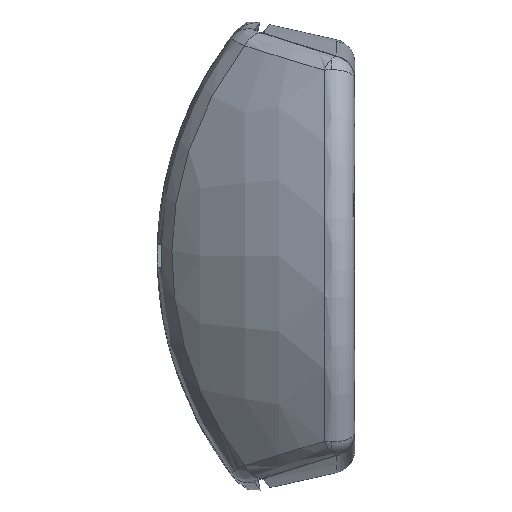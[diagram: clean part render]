
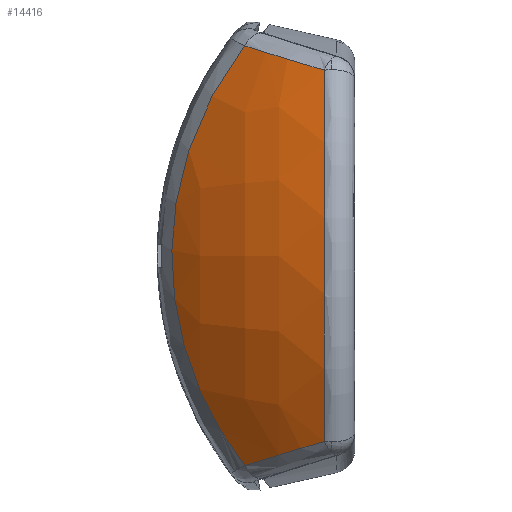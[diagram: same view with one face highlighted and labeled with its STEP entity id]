
A CAD part, left-side view. The second image highlights one B-rep face of the part: STEP entity #14416.
In plain terms, the highlighted toroidal (fillet/blend) face has major radius 7.691 mm and minor radius 35 mm.
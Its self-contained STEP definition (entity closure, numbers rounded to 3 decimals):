
#656 = ORIENTED_EDGE ( 'NONE', *, *, #6350, .T. ) ;
#731 = CARTESIAN_POINT ( 'NONE',  ( 27.093, 7.359, 17.403 ) ) ;
#754 = EDGE_CURVE ( 'NONE', #13818, #17174, #13483, .T. ) ;
#1221 = CARTESIAN_POINT ( 'NONE',  ( 25.263, 14.725, -7.612 ) ) ;
#1279 = CARTESIAN_POINT ( 'NONE',  ( 25.335, 12.892, 12.555 ) ) ;
#1608 = VERTEX_POINT ( 'NONE', #18171 ) ;
#1785 = FACE_OUTER_BOUND ( 'NONE', #3073, .T. ) ;
#1818 = DIRECTION ( 'NONE',  ( 0., 1., 0. ) ) ;
#1880 = EDGE_CURVE ( 'NONE', #4602, #13818, #18003, .T. ) ;
#1901 = CARTESIAN_POINT ( 'NONE',  ( 25.327, 9.46, 18.066 ) ) ;
#2787 = CARTESIAN_POINT ( 'NONE',  ( 25.234, 15.201, -5.632 ) ) ;
#2855 = CARTESIAN_POINT ( 'NONE',  ( 25.356, 11.356, 15.428 ) ) ;
#3073 = EDGE_LOOP ( 'NONE', ( #16927, #656, #10299, #12401 ) ) ;
#4367 = CARTESIAN_POINT ( 'NONE',  ( 25.195, 15.745, -1.631 ) ) ;
#4434 = CARTESIAN_POINT ( 'NONE',  ( 25.327, 9.46, 18.066 ) ) ;
#4602 = VERTEX_POINT ( 'NONE', #11586 ) ;
#5900 = CARTESIAN_POINT ( 'NONE',  ( 25.353, 11.339, -15.392 ) ) ;
#5952 = B_SPLINE_CURVE_WITH_KNOTS ( 'NONE', 3,
 ( #10106, #731, #7119, #18192 ),
 .UNSPECIFIED., .F., .F.,
 ( 4, 4 ),
 ( 0., 0.008 ),
 .UNSPECIFIED. ) ;
#5974 = CARTESIAN_POINT ( 'NONE',  ( 25.198, 15.712, 1.619 ) ) ;
#6350 = EDGE_CURVE ( 'NONE', #17174, #1608, #5952, .T. ) ;
#6761 = AXIS2_PLACEMENT_3D ( 'NONE', #10922, #20447, #14115 ) ;
#6838 = CARTESIAN_POINT ( 'NONE',  ( 29.756, 2.623, -15.979 ) ) ;
#7119 = CARTESIAN_POINT ( 'NONE',  ( 28.574, 5.085, 16.699 ) ) ;
#7408 = CARTESIAN_POINT ( 'NONE',  ( 25.347, 10.443, -16.755 ) ) ;
#7479 = CARTESIAN_POINT ( 'NONE',  ( 25.338, 12.922, -12.568 ) ) ;
#7548 = CARTESIAN_POINT ( 'NONE',  ( 25.216, 15.47, 4.057 ) ) ;
#8396 = CARTESIAN_POINT ( 'NONE',  ( 27.093, 7.359, -17.403 ) ) ;
#9048 = CARTESIAN_POINT ( 'NONE',  ( 25.287, 14.25, -9.176 ) ) ;
#9114 = CARTESIAN_POINT ( 'NONE',  ( 25.269, 14.656, 8.012 ) ) ;
#9636 = TOROIDAL_SURFACE ( 'NONE', #6761, 7.691, 35. ) ;
#9968 = AXIS2_PLACEMENT_3D ( 'NONE', #11214, #1818, #12794 ) ;
#10106 = CARTESIAN_POINT ( 'NONE',  ( 25.327, 9.46, 18.066 ) ) ;
#10299 = ORIENTED_EDGE ( 'NONE', *, *, #10494, .T. ) ;
#10494 = EDGE_CURVE ( 'NONE', #1608, #4602, #12695, .T. ) ;
#10608 = CARTESIAN_POINT ( 'NONE',  ( 25.269, 14.614, -8.008 ) ) ;
#10677 = CARTESIAN_POINT ( 'NONE',  ( 25.316, 13.557, 11.061 ) ) ;
#10922 = CARTESIAN_POINT ( 'NONE',  ( -7.947, -8.279, 0. ) ) ;
#11214 = CARTESIAN_POINT ( 'NONE',  ( -7.947, 2.623, 0. ) ) ;
#11586 = CARTESIAN_POINT ( 'NONE',  ( 29.756, 2.623, -15.979 ) ) ;
#12187 = CARTESIAN_POINT ( 'NONE',  ( 25.245, 15.031, -6.426 ) ) ;
#12252 = CARTESIAN_POINT ( 'NONE',  ( 25.343, 12.528, 13.288 ) ) ;
#12401 = ORIENTED_EDGE ( 'NONE', *, *, #1880, .T. ) ;
#12695 = CIRCLE ( 'NONE', #9968, 40.949 ) ;
#12794 = DIRECTION ( 'NONE',  ( 0., 0., -1. ) ) ;
#13483 = B_SPLINE_CURVE_WITH_KNOTS ( 'NONE', 3,
 ( #15335, #13723, #7408, #5900, #16956, #7479, #18550, #9048, #20142, #10608, #1221, #12187, #2787, #13792, #4367, #15406, #5974, #17018, #7548, #18616, #9114, #20209, #10677, #1279, #12252, #2855, #13867, #4434 ),
 .UNSPECIFIED., .F., .F.,
 ( 4, 2, 2, 2, 2, 2, 2, 2, 2, 2, 2, 2, 2, 4 ),
 ( 0.001, 0.004, 0.006, 0.011, 0.012, 0.014, 0.016, 0.021, 0.024, 0.026, 0.031, 0.033, 0.036, 0.041 ),
 .UNSPECIFIED. ) ;
#13723 = CARTESIAN_POINT ( 'NONE',  ( 25.34, 9.964, -17.422 ) ) ;
#13792 = CARTESIAN_POINT ( 'NONE',  ( 25.206, 15.608, -3.239 ) ) ;
#13818 = VERTEX_POINT ( 'NONE', #18876 ) ;
#13867 = CARTESIAN_POINT ( 'NONE',  ( 25.352, 10.463, 16.783 ) ) ;
#14115 = DIRECTION ( 'NONE',  ( 0., 0., -1. ) ) ;
#14416 = ADVANCED_FACE ( 'NONE', ( #1785 ), #9636, .T. ) ;
#15335 = CARTESIAN_POINT ( 'NONE',  ( 25.327, 9.46, -18.066 ) ) ;
#15406 = CARTESIAN_POINT ( 'NONE',  ( 25.195, 15.746, 0.802 ) ) ;
#16291 = CARTESIAN_POINT ( 'NONE',  ( 28.574, 5.085, -16.699 ) ) ;
#16927 = ORIENTED_EDGE ( 'NONE', *, *, #754, .T. ) ;
#16956 = CARTESIAN_POINT ( 'NONE',  ( 25.352, 11.757, -14.697 ) ) ;
#17018 = CARTESIAN_POINT ( 'NONE',  ( 25.208, 15.573, 3.25 ) ) ;
#17174 = VERTEX_POINT ( 'NONE', #1901 ) ;
#18003 = B_SPLINE_CURVE_WITH_KNOTS ( 'NONE', 3,
 ( #6838, #16291, #8396, #19480 ),
 .UNSPECIFIED., .F., .F.,
 ( 4, 4 ),
 ( 0., 0.008 ),
 .UNSPECIFIED. ) ;
#18171 = CARTESIAN_POINT ( 'NONE',  ( 29.756, 2.623, 15.979 ) ) ;
#18192 = CARTESIAN_POINT ( 'NONE',  ( 29.756, 2.623, 15.979 ) ) ;
#18550 = CARTESIAN_POINT ( 'NONE',  ( 25.317, 13.58, -11.092 ) ) ;
#18616 = CARTESIAN_POINT ( 'NONE',  ( 25.244, 15.06, 6.451 ) ) ;
#18876 = CARTESIAN_POINT ( 'NONE',  ( 25.327, 9.46, -18.066 ) ) ;
#19480 = CARTESIAN_POINT ( 'NONE',  ( 25.327, 9.46, -18.066 ) ) ;
#20142 = CARTESIAN_POINT ( 'NONE',  ( 25.281, 14.377, -8.789 ) ) ;
#20209 = CARTESIAN_POINT ( 'NONE',  ( 25.305, 13.856, 10.305 ) ) ;
#20447 = DIRECTION ( 'NONE',  ( 0., -1., 0. ) ) ;
